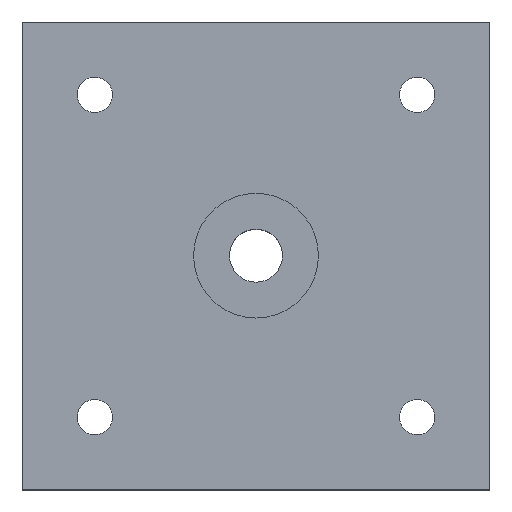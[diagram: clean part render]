
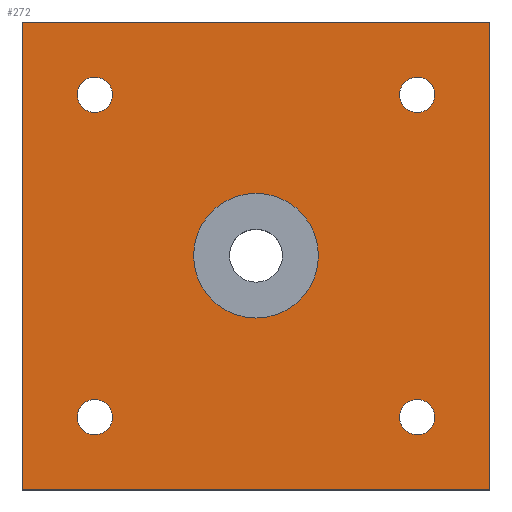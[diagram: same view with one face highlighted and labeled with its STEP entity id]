
A CAD part, top view. The second image highlights one B-rep face of the part: STEP entity #272.
In plain terms, the highlighted planar face has unit normal (0, 0, 1).
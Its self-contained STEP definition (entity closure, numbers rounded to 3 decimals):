
#19=FACE_BOUND('',#68,.T.);
#20=FACE_BOUND('',#69,.T.);
#21=FACE_BOUND('',#70,.T.);
#22=FACE_BOUND('',#71,.T.);
#23=FACE_BOUND('',#72,.T.);
#35=PLANE('',#316);
#50=FACE_OUTER_BOUND('',#67,.T.);
#67=EDGE_LOOP('',(#234,#235,#236,#237));
#68=EDGE_LOOP('',(#238));
#69=EDGE_LOOP('',(#239));
#70=EDGE_LOOP('',(#240));
#71=EDGE_LOOP('',(#241));
#72=EDGE_LOOP('',(#242));
#88=LINE('',#449,#107);
#91=LINE('',#455,#110);
#94=LINE('',#461,#113);
#97=LINE('',#465,#116);
#107=VECTOR('',#377,10.);
#110=VECTOR('',#382,10.);
#113=VECTOR('',#387,10.);
#116=VECTOR('',#392,10.);
#121=CIRCLE('',#298,2.55);
#123=CIRCLE('',#301,1.7);
#125=CIRCLE('',#304,1.7);
#127=CIRCLE('',#307,1.7);
#129=CIRCLE('',#310,1.7);
#135=VERTEX_POINT('',#413);
#137=VERTEX_POINT('',#419);
#139=VERTEX_POINT('',#425);
#141=VERTEX_POINT('',#431);
#143=VERTEX_POINT('',#437);
#147=VERTEX_POINT('',#446);
#148=VERTEX_POINT('',#448);
#150=VERTEX_POINT('',#454);
#152=VERTEX_POINT('',#460);
#159=EDGE_CURVE('',#135,#135,#121,.T.);
#162=EDGE_CURVE('',#137,#137,#123,.T.);
#165=EDGE_CURVE('',#139,#139,#125,.T.);
#168=EDGE_CURVE('',#141,#141,#127,.T.);
#171=EDGE_CURVE('',#143,#143,#129,.T.);
#176=EDGE_CURVE('',#148,#147,#88,.T.);
#179=EDGE_CURVE('',#150,#148,#91,.T.);
#182=EDGE_CURVE('',#152,#150,#94,.T.);
#185=EDGE_CURVE('',#147,#152,#97,.T.);
#234=ORIENTED_EDGE('',*,*,#185,.T.);
#235=ORIENTED_EDGE('',*,*,#182,.T.);
#236=ORIENTED_EDGE('',*,*,#179,.T.);
#237=ORIENTED_EDGE('',*,*,#176,.T.);
#238=ORIENTED_EDGE('',*,*,#171,.T.);
#239=ORIENTED_EDGE('',*,*,#168,.T.);
#240=ORIENTED_EDGE('',*,*,#165,.T.);
#241=ORIENTED_EDGE('',*,*,#162,.T.);
#242=ORIENTED_EDGE('',*,*,#159,.T.);
#272=ADVANCED_FACE('',(#50,#19,#20,#21,#22,#23),#35,.T.);
#298=AXIS2_PLACEMENT_3D('',#414,#340,#341);
#301=AXIS2_PLACEMENT_3D('',#420,#347,#348);
#304=AXIS2_PLACEMENT_3D('',#426,#354,#355);
#307=AXIS2_PLACEMENT_3D('',#432,#361,#362);
#310=AXIS2_PLACEMENT_3D('',#438,#368,#369);
#316=AXIS2_PLACEMENT_3D('',#466,#393,#394);
#340=DIRECTION('center_axis',(0.,0.,-1.));
#341=DIRECTION('ref_axis',(1.,0.,0.));
#347=DIRECTION('center_axis',(0.,0.,-1.));
#348=DIRECTION('ref_axis',(1.,0.,0.));
#354=DIRECTION('center_axis',(0.,0.,-1.));
#355=DIRECTION('ref_axis',(1.,0.,0.));
#361=DIRECTION('center_axis',(0.,0.,-1.));
#362=DIRECTION('ref_axis',(1.,0.,0.));
#368=DIRECTION('center_axis',(0.,0.,-1.));
#369=DIRECTION('ref_axis',(1.,0.,0.));
#377=DIRECTION('',(0.,1.,0.));
#382=DIRECTION('',(1.,0.,0.));
#387=DIRECTION('',(0.,-1.,0.));
#392=DIRECTION('',(-1.,0.,0.));
#393=DIRECTION('center_axis',(0.,0.,1.));
#394=DIRECTION('ref_axis',(1.,0.,0.));
#413=CARTESIAN_POINT('',(-2.55,0.,5.));
#414=CARTESIAN_POINT('Origin',(0.,0.,5.));
#419=CARTESIAN_POINT('',(-17.2,15.5,5.));
#420=CARTESIAN_POINT('Origin',(-15.5,15.5,5.));
#425=CARTESIAN_POINT('',(-17.2,-15.5,5.));
#426=CARTESIAN_POINT('Origin',(-15.5,-15.5,5.));
#431=CARTESIAN_POINT('',(13.8,-15.5,5.));
#432=CARTESIAN_POINT('Origin',(15.5,-15.5,5.));
#437=CARTESIAN_POINT('',(13.8,15.5,5.));
#438=CARTESIAN_POINT('Origin',(15.5,15.5,5.));
#446=CARTESIAN_POINT('',(22.5,22.5,5.));
#448=CARTESIAN_POINT('',(22.5,-22.5,5.));
#449=CARTESIAN_POINT('',(22.5,22.5,5.));
#454=CARTESIAN_POINT('',(-22.5,-22.5,5.));
#455=CARTESIAN_POINT('',(22.5,-22.5,5.));
#460=CARTESIAN_POINT('',(-22.5,22.5,5.));
#461=CARTESIAN_POINT('',(-22.5,-22.5,5.));
#465=CARTESIAN_POINT('',(-22.5,22.5,5.));
#466=CARTESIAN_POINT('Origin',(0.,0.,5.));
